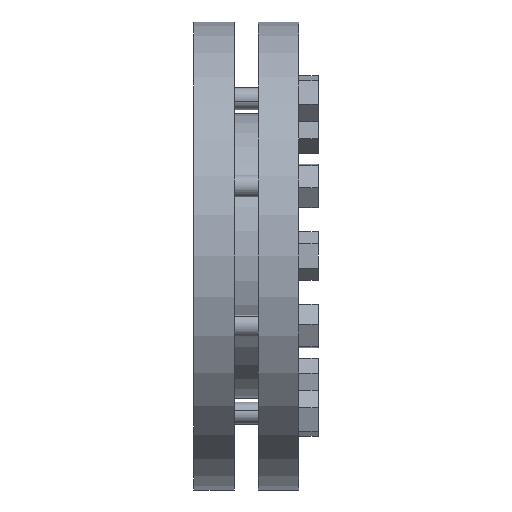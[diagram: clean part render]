
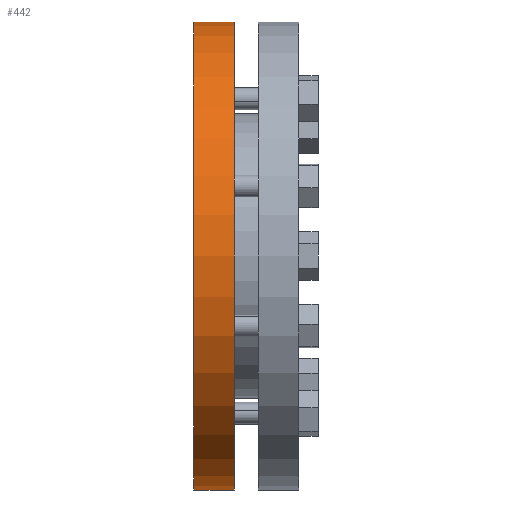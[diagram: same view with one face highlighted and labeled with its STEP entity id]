
A CAD part, front view. The second image highlights one B-rep face of the part: STEP entity #442.
In plain terms, the highlighted cylindrical face has radius 72.5 mm (diameter 145 mm), a partial arc.
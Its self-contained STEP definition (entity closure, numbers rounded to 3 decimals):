
#315 = EDGE_CURVE ( 'NONE', #367, #461, #2014, .T. ) ;
#328 = EDGE_CURVE ( 'NONE', #368, #383, #1865, .T. ) ;
#367 = VERTEX_POINT ( 'NONE', #1810 ) ;
#368 = VERTEX_POINT ( 'NONE', #1809 ) ;
#383 = VERTEX_POINT ( 'NONE', #2109 ) ;
#442 = ADVANCED_FACE ( 'NONE', ( #2192 ), #2191, .T. ) ;
#443 = EDGE_LOOP ( 'NONE', ( #444, #445, #618, #619 ) ) ;
#444 = ORIENTED_EDGE ( 'NONE', *, *, #315, .F. ) ;
#445 = ORIENTED_EDGE ( 'NONE', *, *, #543, .T. ) ;
#461 = VERTEX_POINT ( 'NONE', #2337 ) ;
#543 = EDGE_CURVE ( 'NONE', #367, #368, #2356, .T. ) ;
#618 = ORIENTED_EDGE ( 'NONE', *, *, #328, .T. ) ;
#619 = ORIENTED_EDGE ( 'NONE', *, *, #621, .F. ) ;
#621 = EDGE_CURVE ( 'NONE', #461, #383, #2612, .T. ) ;
#1809 = CARTESIAN_POINT ( 'NONE',  ( 12.5, 0., 72.5 ) ) ;
#1810 = CARTESIAN_POINT ( 'NONE',  ( 12.5, 0., -72.5 ) ) ;
#1844 = DIRECTION ( 'NONE',  ( -1., 0., 0. ) ) ;
#1845 = VECTOR ( 'NONE', #1844, 1000. ) ;
#1846 = CARTESIAN_POINT ( 'NONE',  ( 0., 0., 72.5 ) ) ;
#1865 = LINE ( 'NONE', #1846, #1845 ) ;
#1876 = DIRECTION ( 'NONE',  ( -1., 0., 0. ) ) ;
#2012 = VECTOR ( 'NONE', #1876, 1000. ) ;
#2013 = CARTESIAN_POINT ( 'NONE',  ( 0., 0., -72.5 ) ) ;
#2014 = LINE ( 'NONE', #2013, #2012 ) ;
#2109 = CARTESIAN_POINT ( 'NONE',  ( 0., 0., 72.5 ) ) ;
#2187 = DIRECTION ( 'NONE',  ( 0., 0., 1. ) ) ;
#2188 = DIRECTION ( 'NONE',  ( -1., 0., 0. ) ) ;
#2189 = CARTESIAN_POINT ( 'NONE',  ( 0., 0., 0. ) ) ;
#2190 = AXIS2_PLACEMENT_3D ( 'NONE', #2189, #2188, #2187 ) ;
#2191 = CYLINDRICAL_SURFACE ( 'NONE', #2190, 72.5 ) ;
#2192 = FACE_OUTER_BOUND ( 'NONE', #443, .T. ) ;
#2337 = CARTESIAN_POINT ( 'NONE',  ( 0., 0., -72.5 ) ) ;
#2352 = DIRECTION ( 'NONE',  ( 0., 0., 1. ) ) ;
#2353 = DIRECTION ( 'NONE',  ( -1., 0., 0. ) ) ;
#2354 = CARTESIAN_POINT ( 'NONE',  ( 12.5, 0., 0. ) ) ;
#2355 = AXIS2_PLACEMENT_3D ( 'NONE', #2354, #2353, #2352 ) ;
#2356 = CIRCLE ( 'NONE', #2355, 72.5 ) ;
#2440 = DIRECTION ( 'NONE',  ( 0., 0., 1. ) ) ;
#2498 = CARTESIAN_POINT ( 'NONE',  ( 0., 0., 0. ) ) ;
#2610 = DIRECTION ( 'NONE',  ( -1., 0., 0. ) ) ;
#2611 = AXIS2_PLACEMENT_3D ( 'NONE', #2498, #2610, #2440 ) ;
#2612 = CIRCLE ( 'NONE', #2611, 72.5 ) ;
